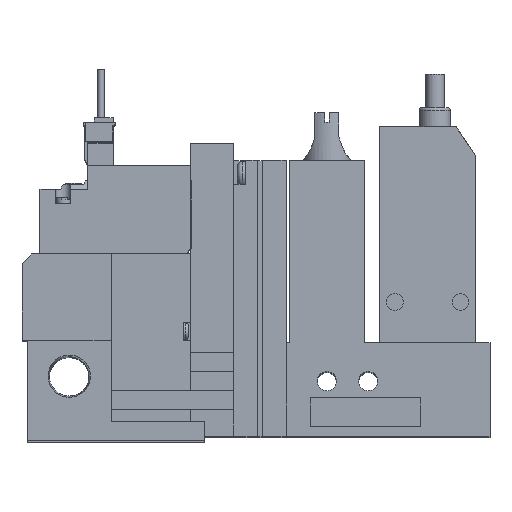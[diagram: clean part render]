
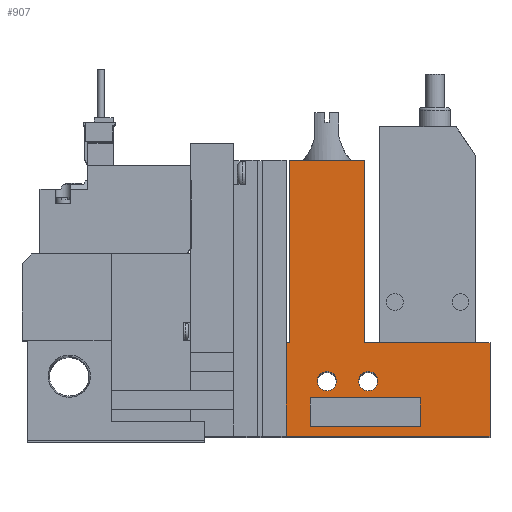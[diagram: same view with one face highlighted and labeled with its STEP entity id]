
A CAD part, top view. The second image highlights one B-rep face of the part: STEP entity #907.
In plain terms, the highlighted planar face has unit normal (0, 0, 1).
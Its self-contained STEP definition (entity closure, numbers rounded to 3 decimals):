
#907=ADVANCED_FACE('',(#1822,#1823,#1824,#1825),#1826,.T.);
#1822=FACE_BOUND('',#3076,.T.);
#1823=FACE_BOUND('',#3077,.T.);
#1824=FACE_BOUND('',#3078,.T.);
#1825=FACE_OUTER_BOUND('',#3079,.T.);
#1826=PLANE('',#3080);
#3076=EDGE_LOOP('',(#6299,#6300,#6301,#6302));
#3077=EDGE_LOOP('',(#6303));
#3078=EDGE_LOOP('',(#6304));
#3079=EDGE_LOOP('',(#6305,#6306,#6307,#6308,#6309,#6310,#6311,#6312));
#3080=AXIS2_PLACEMENT_3D('',#6313,#6314,#6315);
#6299=ORIENTED_EDGE('',*,*,#8617,.T.);
#6300=ORIENTED_EDGE('',*,*,#8621,.T.);
#6301=ORIENTED_EDGE('',*,*,#8622,.T.);
#6302=ORIENTED_EDGE('',*,*,#8458,.T.);
#6303=ORIENTED_EDGE('',*,*,#8619,.T.);
#6304=ORIENTED_EDGE('',*,*,#8620,.T.);
#6305=ORIENTED_EDGE('',*,*,#8623,.F.);
#6306=ORIENTED_EDGE('',*,*,#8611,.T.);
#6307=ORIENTED_EDGE('',*,*,#8615,.T.);
#6308=ORIENTED_EDGE('',*,*,#8586,.T.);
#6309=ORIENTED_EDGE('',*,*,#8614,.T.);
#6310=ORIENTED_EDGE('',*,*,#8389,.T.);
#6311=ORIENTED_EDGE('',*,*,#8588,.T.);
#6312=ORIENTED_EDGE('',*,*,#8470,.T.);
#6313=CARTESIAN_POINT('',(0.0,0.0,10.0));
#6314=DIRECTION('',(0.0,0.0,1.0));
#6315=DIRECTION('',(1.0,0.0,0.0));
#8389=EDGE_CURVE('',#10112,#10110,#10113,.T.);
#8458=EDGE_CURVE('',#10232,#10237,#10239,.T.);
#8470=EDGE_CURVE('',#10260,#10258,#10261,.T.);
#8586=EDGE_CURVE('',#10452,#10450,#10453,.T.);
#8588=EDGE_CURVE('',#10110,#10260,#10455,.T.);
#8611=EDGE_CURVE('',#10490,#10488,#10491,.T.);
#8614=EDGE_CURVE('',#10450,#10112,#10495,.T.);
#8615=EDGE_CURVE('',#10488,#10452,#10496,.T.);
#8617=EDGE_CURVE('',#10237,#10497,#10499,.T.);
#8619=EDGE_CURVE('',#10501,#10501,#10502,.T.);
#8620=EDGE_CURVE('',#10503,#10503,#10504,.T.);
#8621=EDGE_CURVE('',#10497,#10505,#10506,.T.);
#8622=EDGE_CURVE('',#10505,#10232,#10507,.T.);
#8623=EDGE_CURVE('',#10490,#10258,#10508,.T.);
#10110=VERTEX_POINT('',#12954);
#10112=VERTEX_POINT('',#12957);
#10113=LINE('',#12958,#12959);
#10232=VERTEX_POINT('',#13136);
#10237=VERTEX_POINT('',#13143);
#10239=LINE('',#13146,#13147);
#10258=VERTEX_POINT('',#13174);
#10260=VERTEX_POINT('',#13177);
#10261=LINE('',#13178,#13179);
#10450=VERTEX_POINT('',#13469);
#10452=VERTEX_POINT('',#13472);
#10453=LINE('',#13473,#13474);
#10455=LINE('',#13477,#13478);
#10488=VERTEX_POINT('',#13530);
#10490=VERTEX_POINT('',#13533);
#10491=LINE('',#13534,#13535);
#10495=LINE('',#13540,#13541);
#10496=LINE('',#13542,#13543);
#10497=VERTEX_POINT('',#13544);
#10499=LINE('',#13547,#13548);
#10501=VERTEX_POINT('',#13551);
#10502=CIRCLE('',#13552,2.0);
#10503=VERTEX_POINT('',#13553);
#10504=CIRCLE('',#13554,2.0);
#10505=VERTEX_POINT('',#13555);
#10506=LINE('',#13556,#13557);
#10507=LINE('',#13558,#13559);
#10508=LINE('',#13560,#13561);
#12954=CARTESIAN_POINT('',(55.75,57.5,10.0));
#12957=CARTESIAN_POINT('',(71.45,57.5,10.0));
#12958=CARTESIAN_POINT('',(71.45,57.5,10.0));
#12959=VECTOR('',#15495,1.0);
#13136=CARTESIAN_POINT('',(83.1,2.0,10.0));
#13143=CARTESIAN_POINT('',(60.1,2.0,10.0));
#13146=CARTESIAN_POINT('',(0.0,2.0,10.0));
#13147=VECTOR('',#15578,1.0);
#13174=CARTESIAN_POINT('',(55.1,19.5,10.0));
#13177=CARTESIAN_POINT('',(55.75,19.5,10.0));
#13178=CARTESIAN_POINT('',(55.75,19.5,10.0));
#13179=VECTOR('',#15594,1.0);
#13469=CARTESIAN_POINT('',(71.45,19.5,10.0));
#13472=CARTESIAN_POINT('',(97.6,19.5,10.0));
#13473=CARTESIAN_POINT('',(97.6,19.5,10.0));
#13474=VECTOR('',#15733,1.0);
#13477=CARTESIAN_POINT('',(55.75,57.5,10.0));
#13478=VECTOR('',#15735,1.0);
#13530=CARTESIAN_POINT('',(97.6,0.0,10.0));
#13533=CARTESIAN_POINT('',(55.1,0.0,10.0));
#13534=CARTESIAN_POINT('',(18.6,0.0,10.0));
#13535=VECTOR('',#15762,1.0);
#13540=CARTESIAN_POINT('',(71.45,19.5,10.0));
#13541=VECTOR('',#15767,1.0);
#13542=CARTESIAN_POINT('',(97.6,0.0,10.0));
#13543=VECTOR('',#15768,1.0);
#13544=CARTESIAN_POINT('',(60.1,8.0,10.0));
#13547=CARTESIAN_POINT('',(60.1,0.0,10.0));
#13548=VECTOR('',#15770,1.0);
#13551=CARTESIAN_POINT('',(65.6,11.5,10.0));
#13552=AXIS2_PLACEMENT_3D('',#15772,#15773,#15774);
#13553=CARTESIAN_POINT('',(74.2,11.5,10.0));
#13554=AXIS2_PLACEMENT_3D('',#15775,#15776,#15777);
#13555=CARTESIAN_POINT('',(83.1,8.0,10.0));
#13556=CARTESIAN_POINT('',(0.0,8.0,10.0));
#13557=VECTOR('',#15778,1.0);
#13558=CARTESIAN_POINT('',(83.1,0.0,10.0));
#13559=VECTOR('',#15779,1.0);
#13560=CARTESIAN_POINT('',(55.1,0.0,10.0));
#13561=VECTOR('',#15780,1.0);
#15495=DIRECTION('',(-1.0,0.0,0.0));
#15578=DIRECTION('',(-1.0,0.0,0.0));
#15594=DIRECTION('',(-1.0,0.0,0.0));
#15733=DIRECTION('',(-1.0,0.0,0.0));
#15735=DIRECTION('',(0.0,-1.0,0.0));
#15762=DIRECTION('',(1.0,0.0,0.0));
#15767=DIRECTION('',(0.0,1.0,0.0));
#15768=DIRECTION('',(0.0,1.0,0.0));
#15770=DIRECTION('',(0.0,1.0,0.0));
#15772=CARTESIAN_POINT('',(63.6,11.5,10.0));
#15773=DIRECTION('',(0.0,0.0,-1.0));
#15774=DIRECTION('',(1.0,0.0,0.0));
#15775=CARTESIAN_POINT('',(72.2,11.5,10.0));
#15776=DIRECTION('',(0.0,0.0,-1.0));
#15777=DIRECTION('',(1.0,0.0,0.0));
#15778=DIRECTION('',(1.0,0.0,0.0));
#15779=DIRECTION('',(0.0,-1.0,0.0));
#15780=DIRECTION('',(0.0,1.0,0.0));
